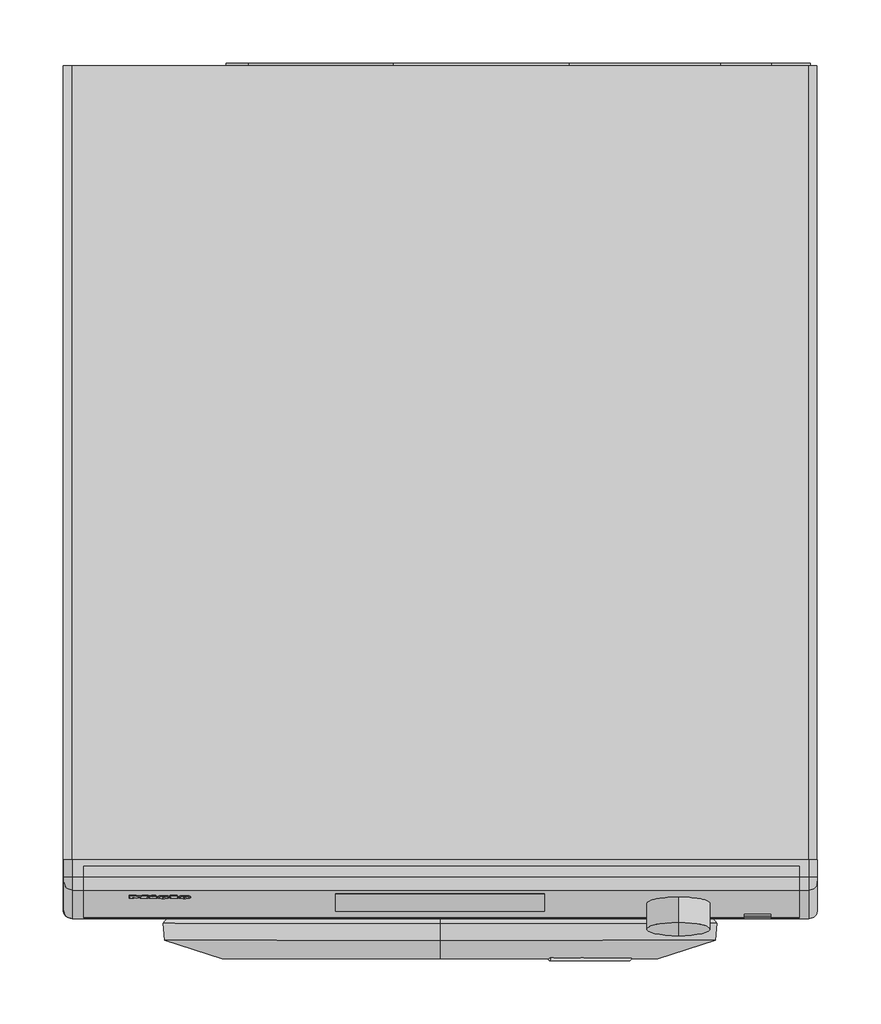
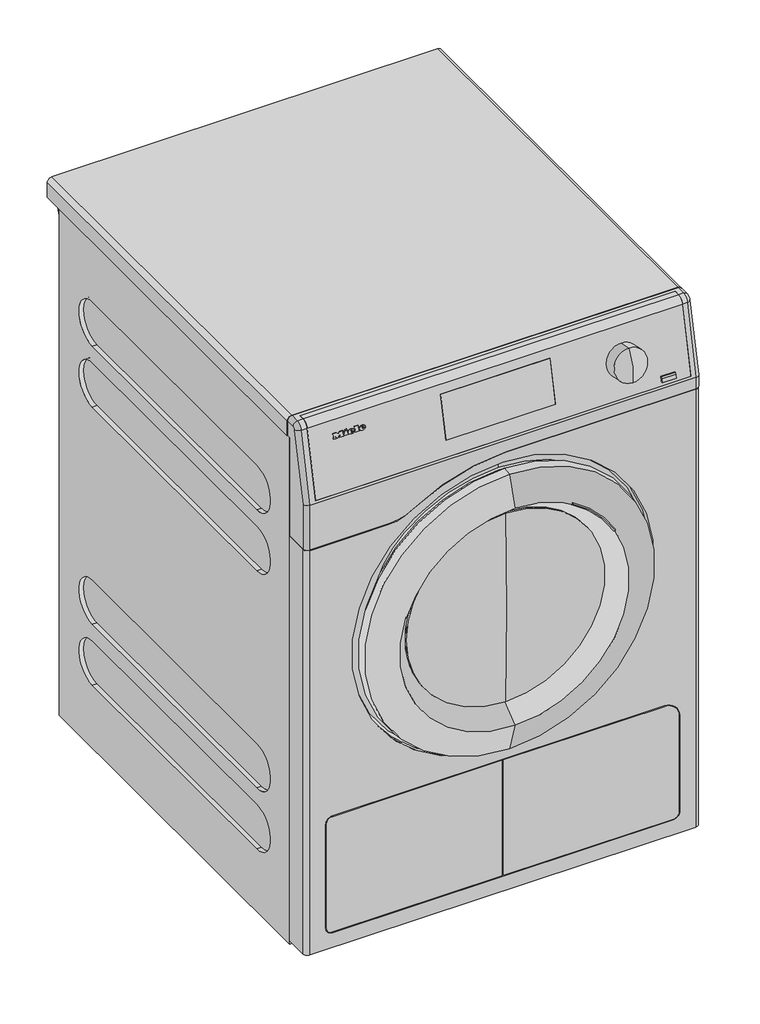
# Not in any storey: 1 proxy.
"""IFC4 building model written with IfcOpenShell, lengths in millimetres."""

from ifc_helpers import new_model, si_unit, origin, place, context, project, spatial, transform, mapped, element, save
from components import specialty_equipment_d1bbccee, specialty_equipment_6a1f8d6e

model = new_model("IFC4")

# Units and contexts
model_context = context("Model", 3, world=origin())
ifc_project = project(units=[si_unit("LENGTHUNIT", "METRE", prefix="MILLI")], contexts=[model_context])

# Site, building
site = spatial("IfcSite", under=ifc_project)
building = spatial("IfcBuilding", under=site)

# Proxy
placement = place(None, origin())
specialty_equipment_shape = specialty_equipment_d1bbccee(model_context)
specialty_equipment_2_shape = specialty_equipment_6a1f8d6e(model_context)
element("IfcBuildingElementProxy", 1, Name="12749310_D_PDR508ROPEL_SST : 52508462_D_12749310_PDR508ROPEL_SST", ObjectType="12749310_D_PDR508ROPEL_SST : 52508462_D_12749310_PDR508ROPEL_SST", at=placement, inside=building, context=model_context, shape_type="MappedRepresentation", body=[
    mapped(specialty_equipment_shape, transform((0.0, 0.0, 0.0), x_axis=(1.0, 0.0, 0.0), y_axis=(0.0, 1.0, 0.0), z_axis=(0.0, 0.0, 1.0))),
    mapped(specialty_equipment_2_shape, transform((0.0, 0.0, 0.0), x_axis=(1.0, 0.0, 0.0), y_axis=(0.0, 1.0, 0.0), z_axis=(0.0, 0.0, 1.0))),
])

save(model, "model.ifc")
